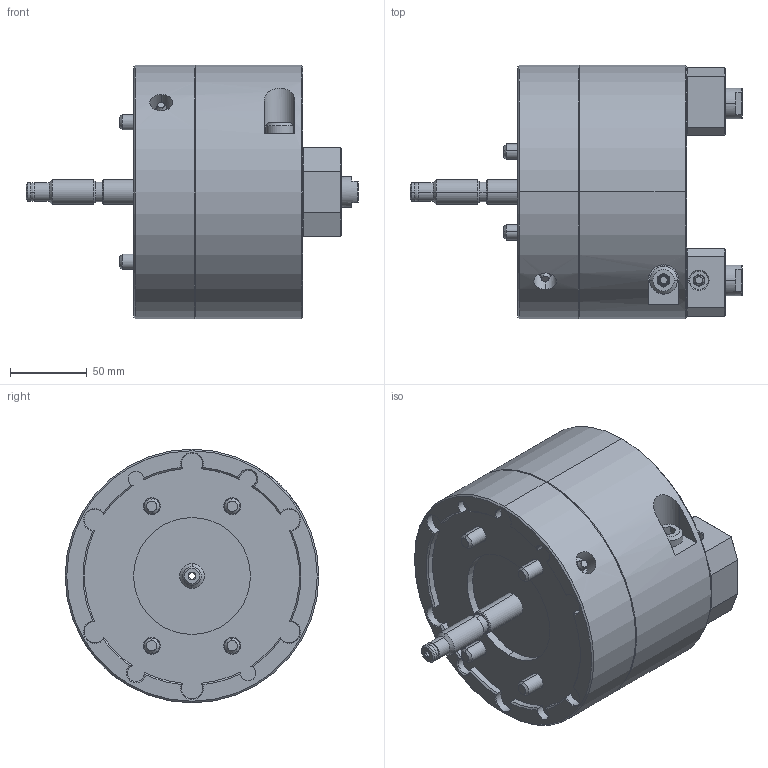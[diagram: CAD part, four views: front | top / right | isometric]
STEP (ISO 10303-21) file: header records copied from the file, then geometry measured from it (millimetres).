
FILE_DESCRIPTION (( 'STEP AP214' ), '1' );
FILE_NAME ('GFT06_OC.STEP', '2019-12-02T04:09:44', ( '' ), ( '' ), 'SwSTEP 2.0', 'SolidWorks 2017', '' );
FILE_SCHEMA (( 'AUTOMOTIVE_DESIGN' ));
Length unit declared in the file: millimetre
Products named in the file (2): 結合; GFT06_OC
Assembly tree (1 placements, depth 2):
  GFT06_OC
    結合
Bounding box: 216 x 165 x 165 mm (x, y, z)
Volume: 2320663.4 mm3; surface area: 161392.4 mm2
Topology: 3 solids, 17 shells, 1240 faces, 2963 edges, 1799 vertices
Faces by surface type: plane 554, cone 289, cylinder 247, bspline 90, torus 60
Entity records: 39829 total; most frequent: CARTESIAN_POINT 11541, ORIENTED_EDGE 5846, DIRECTION 5842, EDGE_CURVE 2923, AXIS2_PLACEMENT_3D 2175, VERTEX_POINT 1799, VECTOR 1492, LINE 1492
